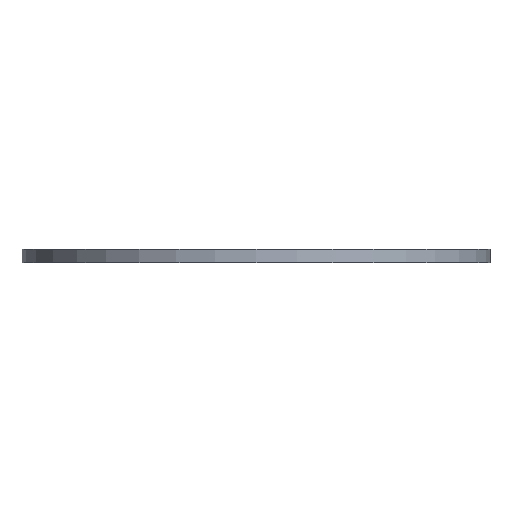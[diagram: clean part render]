
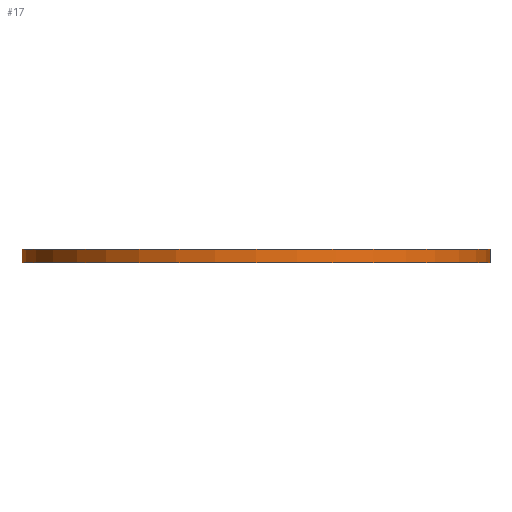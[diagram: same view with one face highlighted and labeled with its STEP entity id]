
A CAD part, front view. The second image highlights one B-rep face of the part: STEP entity #17.
In plain terms, the highlighted cylindrical face has radius 187 mm (diameter 374 mm), a full revolution.
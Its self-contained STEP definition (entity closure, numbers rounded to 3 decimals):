
#17 = ADVANCED_FACE('',(#18),#32,.T.);
#18 = FACE_BOUND('',#19,.F.);
#19 = EDGE_LOOP('',(#20,#50,#77,#78));
#20 = ORIENTED_EDGE('',*,*,#21,.T.);
#21 = EDGE_CURVE('',#22,#24,#26,.T.);
#22 = VERTEX_POINT('',#23);
#23 = CARTESIAN_POINT('',(187.,0.,-5.5));
#24 = VERTEX_POINT('',#25);
#25 = CARTESIAN_POINT('',(187.,0.,5.5));
#26 = SEAM_CURVE('',#27,(#31,#43),.PCURVE_S1.);
#27 = LINE('',#28,#29);
#28 = CARTESIAN_POINT('',(187.,0.,-5.5));
#29 = VECTOR('',#30,1.);
#30 = DIRECTION('',(0.,0.,1.));
#31 = PCURVE('',#32,#37);
#32 = CYLINDRICAL_SURFACE('',#33,187.);
#33 = AXIS2_PLACEMENT_3D('',#34,#35,#36);
#34 = CARTESIAN_POINT('',(0.,0.,-5.5));
#35 = DIRECTION('',(-0.,-0.,-1.));
#36 = DIRECTION('',(1.,0.,0.));
#37 = DEFINITIONAL_REPRESENTATION('',(#38),#42);
#38 = LINE('',#39,#40);
#39 = CARTESIAN_POINT('',(-0.,0.));
#40 = VECTOR('',#41,1.);
#41 = DIRECTION('',(-0.,-1.));
#42 = ( GEOMETRIC_REPRESENTATION_CONTEXT(2) 
PARAMETRIC_REPRESENTATION_CONTEXT() REPRESENTATION_CONTEXT('2D SPACE',''
  ) );
#43 = PCURVE('',#32,#44);
#44 = DEFINITIONAL_REPRESENTATION('',(#45),#49);
#45 = LINE('',#46,#47);
#46 = CARTESIAN_POINT('',(-6.283,0.));
#47 = VECTOR('',#48,1.);
#48 = DIRECTION('',(-0.,-1.));
#49 = ( GEOMETRIC_REPRESENTATION_CONTEXT(2) 
PARAMETRIC_REPRESENTATION_CONTEXT() REPRESENTATION_CONTEXT('2D SPACE',''
  ) );
#50 = ORIENTED_EDGE('',*,*,#51,.T.);
#51 = EDGE_CURVE('',#24,#24,#52,.T.);
#52 = SURFACE_CURVE('',#53,(#58,#65),.PCURVE_S1.);
#53 = CIRCLE('',#54,187.);
#54 = AXIS2_PLACEMENT_3D('',#55,#56,#57);
#55 = CARTESIAN_POINT('',(0.,0.,5.5));
#56 = DIRECTION('',(0.,0.,1.));
#57 = DIRECTION('',(1.,0.,0.));
#58 = PCURVE('',#32,#59);
#59 = DEFINITIONAL_REPRESENTATION('',(#60),#64);
#60 = LINE('',#61,#62);
#61 = CARTESIAN_POINT('',(-0.,-11.));
#62 = VECTOR('',#63,1.);
#63 = DIRECTION('',(-1.,0.));
#64 = ( GEOMETRIC_REPRESENTATION_CONTEXT(2) 
PARAMETRIC_REPRESENTATION_CONTEXT() REPRESENTATION_CONTEXT('2D SPACE',''
  ) );
#65 = PCURVE('',#66,#71);
#66 = PLANE('',#67);
#67 = AXIS2_PLACEMENT_3D('',#68,#69,#70);
#68 = CARTESIAN_POINT('',(0.,0.,5.5));
#69 = DIRECTION('',(0.,0.,1.));
#70 = DIRECTION('',(1.,0.,-0.));
#71 = DEFINITIONAL_REPRESENTATION('',(#72),#76);
#72 = CIRCLE('',#73,187.);
#73 = AXIS2_PLACEMENT_2D('',#74,#75);
#74 = CARTESIAN_POINT('',(0.,0.));
#75 = DIRECTION('',(1.,0.));
#76 = ( GEOMETRIC_REPRESENTATION_CONTEXT(2) 
PARAMETRIC_REPRESENTATION_CONTEXT() REPRESENTATION_CONTEXT('2D SPACE',''
  ) );
#77 = ORIENTED_EDGE('',*,*,#21,.F.);
#78 = ORIENTED_EDGE('',*,*,#79,.F.);
#79 = EDGE_CURVE('',#22,#22,#80,.T.);
#80 = SURFACE_CURVE('',#81,(#86,#93),.PCURVE_S1.);
#81 = CIRCLE('',#82,187.);
#82 = AXIS2_PLACEMENT_3D('',#83,#84,#85);
#83 = CARTESIAN_POINT('',(0.,0.,-5.5));
#84 = DIRECTION('',(0.,0.,1.));
#85 = DIRECTION('',(1.,0.,0.));
#86 = PCURVE('',#32,#87);
#87 = DEFINITIONAL_REPRESENTATION('',(#88),#92);
#88 = LINE('',#89,#90);
#89 = CARTESIAN_POINT('',(-0.,0.));
#90 = VECTOR('',#91,1.);
#91 = DIRECTION('',(-1.,0.));
#92 = ( GEOMETRIC_REPRESENTATION_CONTEXT(2) 
PARAMETRIC_REPRESENTATION_CONTEXT() REPRESENTATION_CONTEXT('2D SPACE',''
  ) );
#93 = PCURVE('',#94,#99);
#94 = PLANE('',#95);
#95 = AXIS2_PLACEMENT_3D('',#96,#97,#98);
#96 = CARTESIAN_POINT('',(0.,0.,-5.5));
#97 = DIRECTION('',(0.,0.,1.));
#98 = DIRECTION('',(1.,0.,-0.));
#99 = DEFINITIONAL_REPRESENTATION('',(#100),#104);
#100 = CIRCLE('',#101,187.);
#101 = AXIS2_PLACEMENT_2D('',#102,#103);
#102 = CARTESIAN_POINT('',(0.,0.));
#103 = DIRECTION('',(1.,0.));
#104 = ( GEOMETRIC_REPRESENTATION_CONTEXT(2) 
PARAMETRIC_REPRESENTATION_CONTEXT() REPRESENTATION_CONTEXT('2D SPACE',''
  ) );
